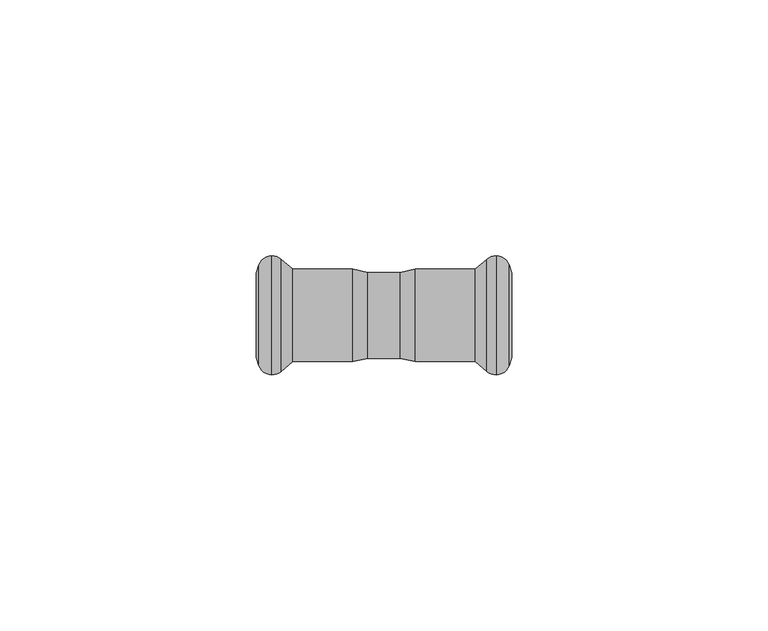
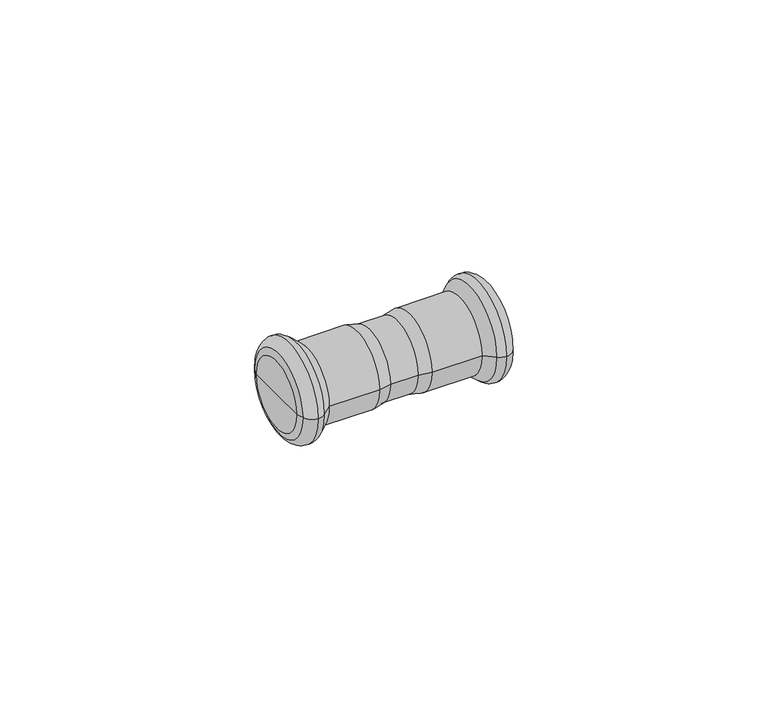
"""IFC4 building model written with IfcOpenShell, lengths in millimetres: pipe fitting geometry, KAN-therm Inox mufa : KAN-therm Inox mufa."""

from ifc_helpers import new_model, si_unit, point, frame, origin, place, context, project, spatial, polyline, circle_curve, ellipse_curve, trimmed, source, transform, mapped, element, save
from ifc_brep_helpers import plane_surface, cylinder_surface, revolved_surface, advanced_brep


def pipe_fitting_37007416(model_context):
    return source(origin(), model_context, "Body", "AdvancedBrep", [
        advanced_brep(
        [(20.0922627, -10.9370225, 0.0), (20.0922627, 10.9370225, 0.0), (21.8921278, 11.625, 0.0), (21.8921278, -11.625, 0.0), (17.7838092, -9.0, 0.0), (17.7838092, 9.0, 0.0), (6.1180407, -9.0, 0.0), (6.1180407, 9.0, 0.0), (3.2, -8.4, 0.0), (3.2, 8.4, 0.0), (-3.2, -8.4, 0.0), (-3.2, 8.4, 0.0), (-6.1180407, -9.0, 0.0), (-6.1180407, 9.0, 0.0), (-17.7838092, -9.0, 0.0), (-17.7838092, 9.0, 0.0), (-20.0922627, -10.9370225, 0.0), (-20.0922627, 10.9370225, 0.0), (-21.8921278, -11.625, 0.0), (-21.8921278, 11.625, 0.0), (-24.432052, -9.8484544, 0.0), (-24.432052, 9.8484544, 0.0), (-25.0, -8.2880302, 0.0), (-25.0, 8.2880302, 0.0), (-25.0, 0.0, 0.0), (25.0, -8.2880302, 0.0), (25.0, 8.2880302, 0.0), (25.0, 0.0, 0.0), (24.432052, -9.8484544, 0.0), (24.432052, 9.8484544, 0.0)],
        [
            (0, 1, circle_curve(frame((20.0922627, 0.0, 0.0), z_axis=(1.0, 0.0, 0.0), x_axis=(0.0, 1.0, 0.0)), 10.9370225)),
            (1, 2, circle_curve(frame((21.8935049, 8.9230333, 0.0), z_axis=(0.0, 0.0, -1.0), x_axis=(1.0, 0.0, 0.0)), 2.701967)),
            (2, 3, circle_curve(frame((21.8921278, 0.0, 0.0), z_axis=(-1.0, 0.0, 0.0), x_axis=(0.0, 1.0, 0.0)), 11.625)),
            (3, 0, circle_curve(frame((21.8935049, -8.9230333, 0.0), z_axis=(0.0, 0.0, -1.0), x_axis=(1.0, 0.0, 0.0)), 2.701967)),
            (1, 0, circle_curve(frame((20.0922627, 0.0, 0.0), z_axis=(1.0, 0.0, 0.0), x_axis=(0.0, 1.0, 0.0)), 10.9370225)),
            (3, 2, circle_curve(frame((21.8921278, 0.0, 0.0), z_axis=(-1.0, 0.0, 0.0), x_axis=(0.0, 1.0, 0.0)), 11.625)),
            (4, 5, circle_curve(frame((17.7838092, 0.0, 0.0), z_axis=(1.0, 0.0, 0.0), x_axis=(0.0, 1.0, 0.0)), 9.0)),
            (5, 1),
            (0, 4),
            (5, 4, circle_curve(frame((17.7838092, 0.0, 0.0), z_axis=(1.0, 0.0, 0.0), x_axis=(0.0, 1.0, 0.0)), 9.0)),
            (6, 7, circle_curve(frame((6.1180407, 0.0, 0.0), z_axis=(1.0, 0.0, 0.0), x_axis=(0.0, 1.0, 0.0)), 9.0)),
            (7, 5),
            (4, 6),
            (7, 6, circle_curve(frame((6.1180407, 0.0, 0.0), z_axis=(1.0, 0.0, 0.0), x_axis=(0.0, 1.0, 0.0)), 9.0)),
            (8, 9, circle_curve(frame((3.2, 0.0, 0.0), z_axis=(1.0, 0.0, 0.0), x_axis=(0.0, 1.0, 0.0)), 8.4)),
            (9, 7),
            (6, 8),
            (9, 8, circle_curve(frame((3.2, 0.0, 0.0), z_axis=(1.0, 0.0, 0.0), x_axis=(0.0, 1.0, 0.0)), 8.4)),
            (10, 11, circle_curve(frame((-3.2, 0.0, 0.0), z_axis=(1.0, 0.0, 0.0), x_axis=(0.0, 1.0, 0.0)), 8.4)),
            (11, 9),
            (8, 10),
            (11, 10, circle_curve(frame((-3.2, 0.0, 0.0), z_axis=(1.0, 0.0, 0.0), x_axis=(0.0, 1.0, 0.0)), 8.4)),
            (12, 13, circle_curve(frame((-6.1180407, 0.0, 0.0), z_axis=(1.0, 0.0, 0.0), x_axis=(0.0, 1.0, 0.0)), 9.0)),
            (13, 11),
            (10, 12),
            (13, 12, circle_curve(frame((-6.1180407, 0.0, 0.0), z_axis=(1.0, 0.0, 0.0), x_axis=(0.0, 1.0, 0.0)), 9.0)),
            (14, 15, circle_curve(frame((-17.7838092, 0.0, 0.0), z_axis=(1.0, 0.0, 0.0), x_axis=(0.0, 1.0, 0.0)), 9.0)),
            (15, 13),
            (12, 14),
            (15, 14, circle_curve(frame((-17.7838092, 0.0, 0.0), z_axis=(1.0, 0.0, 0.0), x_axis=(0.0, 1.0, 0.0)), 9.0)),
            (16, 17, circle_curve(frame((-20.0922627, 0.0, 0.0), z_axis=(1.0, 0.0, 0.0), x_axis=(0.0, 1.0, 0.0)), 10.9370225)),
            (17, 15),
            (14, 16),
            (17, 16, circle_curve(frame((-20.0922627, 0.0, 0.0), z_axis=(1.0, 0.0, 0.0), x_axis=(0.0, 1.0, 0.0)), 10.9370225)),
            (18, 19, circle_curve(frame((-21.8921278, 0.0, 0.0), z_axis=(1.0, 0.0, 0.0), x_axis=(0.0, 1.0, 0.0)), 11.625)),
            (19, 17, circle_curve(frame((-21.8935049, 8.9230333, 0.0), z_axis=(0.0, 0.0, -1.0), x_axis=(1.0, 0.0, 0.0)), 2.701967)),
            (16, 18, circle_curve(frame((-21.8935049, -8.9230333, 0.0), z_axis=(0.0, 0.0, -1.0), x_axis=(1.0, 0.0, 0.0)), 2.701967)),
            (19, 18, circle_curve(frame((-21.8921278, 0.0, 0.0), z_axis=(1.0, 0.0, 0.0), x_axis=(0.0, 1.0, 0.0)), 11.625)),
            (20, 21, circle_curve(frame((-24.432052, 0.0, 0.0), z_axis=(1.0, 0.0, 0.0), x_axis=(0.0, 1.0, 0.0)), 9.8484544)),
            (21, 19, circle_curve(frame((-21.89488, 8.9249993, 0.0), z_axis=(0.0, 0.0, -1.0), x_axis=(1.0, 0.0, 0.0)), 2.7000021)),
            (18, 20, circle_curve(frame((-21.89488, -8.9249993, 0.0), z_axis=(0.0, 0.0, -1.0), x_axis=(1.0, 0.0, 0.0)), 2.7000021)),
            (21, 20, circle_curve(frame((-24.432052, 0.0, 0.0), z_axis=(1.0, 0.0, 0.0), x_axis=(0.0, 1.0, 0.0)), 9.8484544)),
            (22, 23, circle_curve(frame((-25.0, 0.0, 0.0), z_axis=(1.0, 0.0, 0.0), x_axis=(0.0, 1.0, 0.0)), 8.2880302)),
            (23, 21),
            (20, 22),
            (23, 22, circle_curve(frame((-25.0, 0.0, 0.0), z_axis=(1.0, 0.0, 0.0), x_axis=(0.0, 1.0, 0.0)), 8.2880302)),
            (24, 23),
            (22, 24),
            (25, 26, circle_curve(frame((25.0, 0.0, 0.0), z_axis=(1.0, 0.0, 0.0), x_axis=(0.0, 1.0, 0.0)), 8.2880302)),
            (26, 27),
            (27, 25),
            (26, 25, circle_curve(frame((25.0, 0.0, 0.0), z_axis=(1.0, 0.0, 0.0), x_axis=(0.0, 1.0, 0.0)), 8.2880302)),
            (28, 29, circle_curve(frame((24.432052, 0.0, 0.0), z_axis=(1.0, 0.0, 0.0), x_axis=(0.0, 1.0, 0.0)), 9.8484544)),
            (29, 26),
            (25, 28),
            (29, 28, circle_curve(frame((24.432052, 0.0, 0.0), z_axis=(1.0, 0.0, 0.0), x_axis=(0.0, 1.0, 0.0)), 9.8484544)),
            (2, 29, circle_curve(frame((21.89488, 8.9249993, 0.0), z_axis=(0.0, 0.0, -1.0), x_axis=(1.0, 0.0, 0.0)), 2.7000021)),
            (28, 3, circle_curve(frame((21.89488, -8.9249993, 0.0), z_axis=(0.0, 0.0, -1.0), x_axis=(1.0, 0.0, 0.0)), 2.7000021)),
        ],
        [
            revolved_surface(trimmed(ellipse_curve(frame((21.8935049, 8.9230333, 0.0), z_axis=(0.0, 0.0, 1.0), x_axis=(1.0, 0.0, 0.0)), 2.701967, 2.701967), [point((21.8921278, 11.625, 0.0))], [point((20.0922627, 10.9370225, 0.0))], True, "CARTESIAN"), (1338.742668, 0.0, 0.0), (-1.0, 0.0, 0.0)),
            revolved_surface(polyline([(20.0922627, 10.9370225, 0.0), (17.7838092, 9.0, 0.0)]), (1338.742668, 0.0, 0.0), (-1.0, 0.0, 0.0)),
            cylinder_surface(frame((1338.742668, 0.0, 0.0), z_axis=(-1.0, 0.0, 0.0), x_axis=(0.0, 1.0, 0.0)), 9.0),
            revolved_surface(polyline([(6.1180407, 9.0, 0.0), (3.2, 8.4, 0.0)]), (1338.742668, 0.0, 0.0), (-1.0, 0.0, 0.0)),
            cylinder_surface(frame((1338.742668, 0.0, 0.0), z_axis=(-1.0, 0.0, 0.0), x_axis=(0.0, 1.0, 0.0)), 8.4),
            revolved_surface(polyline([(-3.2, 8.4, 0.0), (-6.1180407, 9.0, 0.0)]), (1338.742668, 0.0, 0.0), (-1.0, 0.0, 0.0)),
            revolved_surface(polyline([(-17.7838092, 9.0, 0.0), (-20.0922627, 10.9370225, 0.0)]), (1338.742668, 0.0, 0.0), (-1.0, 0.0, 0.0)),
            revolved_surface(trimmed(ellipse_curve(frame((-21.8935049, 8.9230333, 0.0), z_axis=(0.0, 0.0, 1.0), x_axis=(1.0, 0.0, 0.0)), 2.701967, 2.701967), [point((-20.0922627, 10.9370225, 0.0))], [point((-21.8921278, 11.625, 0.0))], True, "CARTESIAN"), (1338.742668, 0.0, 0.0), (-1.0, 0.0, 0.0)),
            revolved_surface(trimmed(ellipse_curve(frame((-21.89488, 8.9249993, 0.0), z_axis=(0.0, 0.0, 1.0), x_axis=(1.0, 0.0, 0.0)), 2.7000021, 2.7000021), [point((-21.8921278, 11.625, 0.0))], [point((-24.432052, 9.8484544, 0.0))], True, "CARTESIAN"), (1338.742668, 0.0, 0.0), (-1.0, 0.0, 0.0)),
            revolved_surface(polyline([(-24.432052, 9.8484544, 0.0), (-25.0, 8.2880302, 0.0)]), (1338.742668, 0.0, 0.0), (-1.0, 0.0, 0.0)),
            plane_surface(frame((-25.0, 0.0, 0.0), z_axis=(-1.0, 0.0, 0.0), x_axis=(0.0, 1.0, 0.0))),
            plane_surface(frame((25.0, 0.0, 0.0), z_axis=(1.0, 0.0, 0.0), x_axis=(0.0, 1.0, 0.0))),
            revolved_surface(polyline([(25.0, 8.2880302, 0.0), (24.432052, 9.8484544, 0.0)]), (1338.742668, 0.0, 0.0), (-1.0, 0.0, 0.0)),
            revolved_surface(trimmed(ellipse_curve(frame((21.89488, 8.9249993, 0.0), z_axis=(0.0, 0.0, 1.0), x_axis=(1.0, 0.0, 0.0)), 2.7000021, 2.7000021), [point((24.432052, 9.8484544, 0.0))], [point((21.8921278, 11.625, 0.0))], True, "CARTESIAN"), (1338.742668, 0.0, 0.0), (-1.0, 0.0, 0.0)),
        ],
        [
            (0, [[1, 2, 3, 4]]),
            (0, [[5, -4, 6, -2]]),
            (1, [[7, 8, -1, 9]]),
            (1, [[10, -9, -5, -8]]),
            (2, [[11, 12, -7, 13]]),
            (2, [[14, -13, -10, -12]]),
            (3, [[15, 16, -11, 17]]),
            (3, [[18, -17, -14, -16]]),
            (4, [[19, 20, -15, 21]]),
            (4, [[22, -21, -18, -20]]),
            (5, [[23, 24, -19, 25]]),
            (5, [[26, -25, -22, -24]]),
            (2, [[27, 28, -23, 29]]),
            (2, [[30, -29, -26, -28]]),
            (6, [[31, 32, -27, 33]]),
            (6, [[34, -33, -30, -32]]),
            (7, [[35, 36, -31, 37]]),
            (7, [[38, -37, -34, -36]]),
            (8, [[39, 40, -35, 41]]),
            (8, [[42, -41, -38, -40]]),
            (9, [[43, 44, -39, 45]]),
            (9, [[46, -45, -42, -44]]),
            (10, [[47, -43, 48]]),
            (10, [[-48, -46, -47]]),
            (11, [[49, 50, 51]]),
            (11, [[52, -51, -50]]),
            (12, [[53, 54, -49, 55]]),
            (12, [[56, -55, -52, -54]]),
            (13, [[-3, 57, -53, 58]]),
            (13, [[-6, -58, -56, -57]]),
        ],
    ),
    ])


if __name__ == "__main__":
    model = new_model("IFC4")
    model_context = context("Model", 3, world=origin())
    ifc_project = project(units=[si_unit("LENGTHUNIT", "METRE", prefix="MILLI")], contexts=[model_context])
    site = spatial("IfcSite", under=ifc_project)
    building = spatial("IfcBuilding", under=site)
    placement = place(None, origin())
    pipe_fitting_shape = pipe_fitting_37007416(model_context)
    element("IfcPipeFitting", 1, ObjectType="KAN-therm Inox mufa : KAN-therm Inox mufa", at=placement, inside=building, context=model_context, shape_type="MappedRepresentation", body=[
        mapped(pipe_fitting_shape, transform((0.0, 0.0, 0.0), x_axis=(1.0, 0.0, 0.0), y_axis=(0.0, 1.0, 0.0), z_axis=(0.0, 0.0, 1.0))),
    ])
    save(model, "model.ifc")
